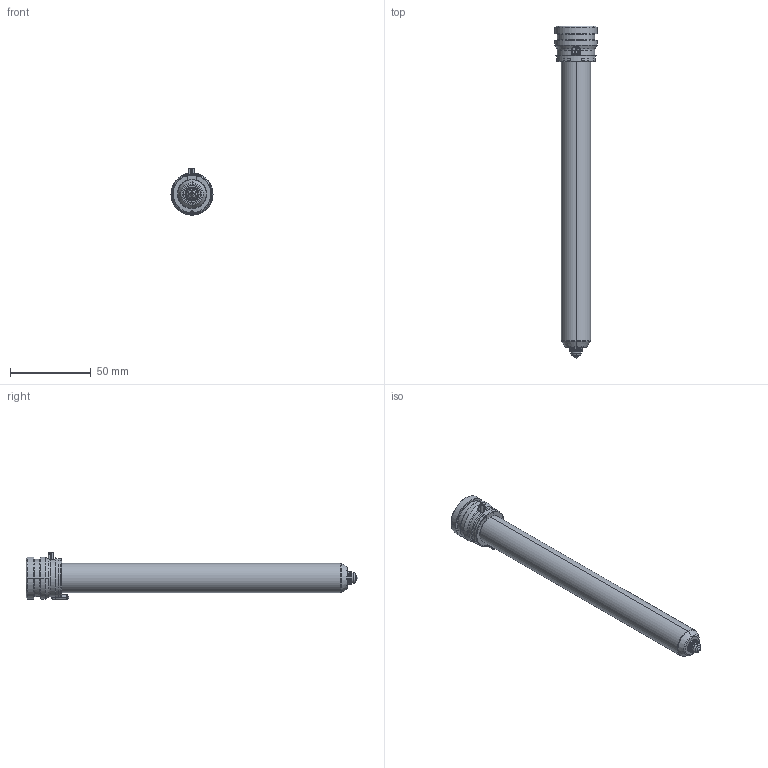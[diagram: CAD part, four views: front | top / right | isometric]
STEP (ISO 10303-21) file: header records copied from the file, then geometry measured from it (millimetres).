
FILE_DESCRIPTION((''),'2;1');
FILE_NAME('TH18187_5-A-1B15-PK-JG','2023-12-14T',('umhib'),('Thermoplay S.p.A.'),'PRO/ENGINEER BY PARAMETRIC TECHNOLOGY CORPORATION, 2017170','PRO/ENGINEER BY PARAMETRIC TECHNOLOGY CORPORATION, 2017170','');
FILE_SCHEMA(('CONFIG_CONTROL_DESIGN'));
Length unit declared in the file: millimetre
Products named in the file (1): TH18187_5-A-1B15-PK-JG
Bounding box: 26 x 205.5 x 29.5 mm (x, y, z)
Volume: 40354.1 mm3; surface area: 29352.8 mm2
Topology: 1 solids, 2 shells, 398 faces, 1036 edges, 643 vertices
Faces by surface type: cylinder 151, plane 85, cone 68, torus 56, bspline 24, sphere 12, extrusion 2
Entity records: 18100 total; most frequent: CARTESIAN_POINT 6138, ORIENTED_EDGE 2048, DIRECTION 2029, EDGE_CURVE 1026, AXIS2_PLACEMENT_3D 814, VERTEX_POINT 643, CIRCLE 441, EDGE_LOOP 418
